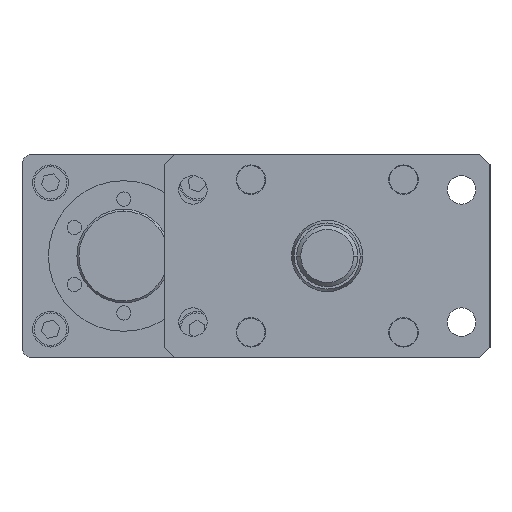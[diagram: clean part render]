
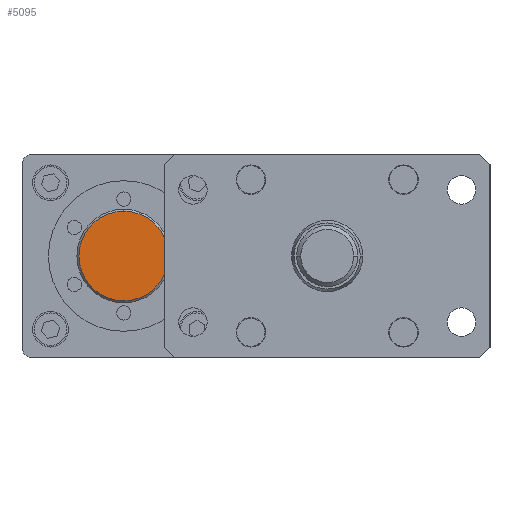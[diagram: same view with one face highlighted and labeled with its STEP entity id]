
A CAD part, front view. The second image highlights one B-rep face of the part: STEP entity #5095.
In plain terms, the highlighted planar face has unit normal (0, -1, 0).
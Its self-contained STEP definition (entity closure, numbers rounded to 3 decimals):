
#4169 = CARTESIAN_POINT ( 'NONE',  ( -100., -145., 0. ) ) ;
#4249 = DIRECTION ( 'NONE',  ( 0., 0., -1. ) ) ;
#4401 = ORIENTED_EDGE ( 'NONE', *, *, #10468, .T. ) ;
#4604 = CARTESIAN_POINT ( 'NONE',  ( -100., -145., 22. ) ) ;
#4743 = AXIS2_PLACEMENT_3D ( 'NONE', #18050, #7994, #19737 ) ;
#5095 = ADVANCED_FACE ( 'NONE', ( #14967 ), #12510, .T. ) ;
#5901 = AXIS2_PLACEMENT_3D ( 'NONE', #16396, #6328, #18101 ) ;
#5929 = CIRCLE ( 'NONE', #5901, 22. ) ;
#6328 = DIRECTION ( 'NONE',  ( 0., -1., 0. ) ) ;
#7759 = ORIENTED_EDGE ( 'NONE', *, *, #11670, .T. ) ;
#7797 = VERTEX_POINT ( 'NONE', #4604 ) ;
#7994 = DIRECTION ( 'NONE',  ( 0., -1., 0. ) ) ;
#8258 = EDGE_LOOP ( 'NONE', ( #4401, #7759 ) ) ;
#10468 = EDGE_CURVE ( 'NONE', #7797, #14248, #5929, .T. ) ;
#11670 = EDGE_CURVE ( 'NONE', #14248, #7797, #18491, .T. ) ;
#12510 = PLANE ( 'NONE',  #12634 ) ;
#12634 = AXIS2_PLACEMENT_3D ( 'NONE', #4169, #14267, #4249 ) ;
#13954 = CARTESIAN_POINT ( 'NONE',  ( -100., -145., -22. ) ) ;
#14248 = VERTEX_POINT ( 'NONE', #13954 ) ;
#14267 = DIRECTION ( 'NONE',  ( 0., -1., 0. ) ) ;
#14967 = FACE_OUTER_BOUND ( 'NONE', #8258, .T. ) ;
#16396 = CARTESIAN_POINT ( 'NONE',  ( -100., -145., 0. ) ) ;
#18050 = CARTESIAN_POINT ( 'NONE',  ( -100., -145., 0. ) ) ;
#18101 = DIRECTION ( 'NONE',  ( 0., 0., -1. ) ) ;
#18491 = CIRCLE ( 'NONE', #4743, 22. ) ;
#19737 = DIRECTION ( 'NONE',  ( 0., 0., -1. ) ) ;
